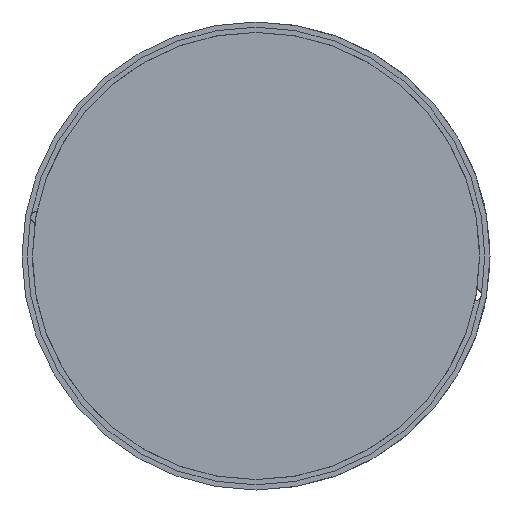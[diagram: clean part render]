
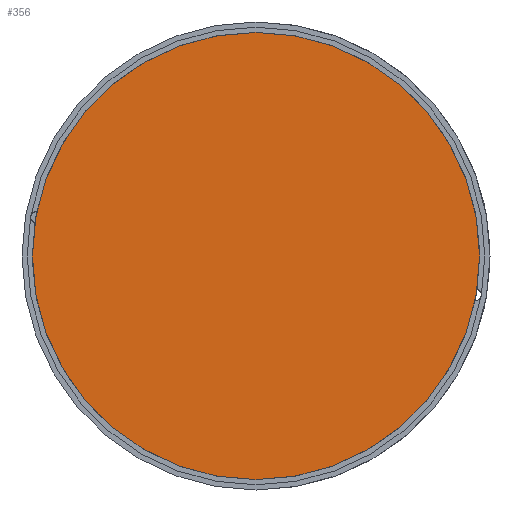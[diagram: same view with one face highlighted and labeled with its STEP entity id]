
A CAD part, front view. The second image highlights one B-rep face of the part: STEP entity #356.
In plain terms, the highlighted planar face has unit normal (0, -1, 0).
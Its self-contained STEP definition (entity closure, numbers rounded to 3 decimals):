
#356 = ADVANCED_FACE ( 'NONE', ( #3923 ), #6917, .T. ) ;
#421 = ORIENTED_EDGE ( 'NONE', *, *, #7129, .T. ) ;
#545 = CARTESIAN_POINT ( 'NONE',  ( 0., 0., 0. ) ) ;
#684 = EDGE_CURVE ( 'NONE', #2308, #7762, #1451, .T. ) ;
#1148 = DIRECTION ( 'NONE',  ( 0., -1., 0. ) ) ;
#1307 = CARTESIAN_POINT ( 'NONE',  ( 0., 0., -172. ) ) ;
#1451 = CIRCLE ( 'NONE', #4015, 172. ) ;
#2308 = VERTEX_POINT ( 'NONE', #2992 ) ;
#2589 = AXIS2_PLACEMENT_3D ( 'NONE', #3273, #4512, #7495 ) ;
#2988 = AXIS2_PLACEMENT_3D ( 'NONE', #4193, #1148, #4783 ) ;
#2992 = CARTESIAN_POINT ( 'NONE',  ( 0., 0., 172. ) ) ;
#3273 = CARTESIAN_POINT ( 'NONE',  ( 0., 0., 0. ) ) ;
#3923 = FACE_OUTER_BOUND ( 'NONE', #5242, .T. ) ;
#4015 = AXIS2_PLACEMENT_3D ( 'NONE', #545, #5493, #5408 ) ;
#4193 = CARTESIAN_POINT ( 'NONE',  ( 0., 0., 0. ) ) ;
#4512 = DIRECTION ( 'NONE',  ( 0., -1., 0. ) ) ;
#4783 = DIRECTION ( 'NONE',  ( 0., 0., -1. ) ) ;
#5242 = EDGE_LOOP ( 'NONE', ( #421, #5785 ) ) ;
#5324 = CIRCLE ( 'NONE', #2589, 172. ) ;
#5408 = DIRECTION ( 'NONE',  ( 0., 0., -1. ) ) ;
#5493 = DIRECTION ( 'NONE',  ( 0., -1., 0. ) ) ;
#5785 = ORIENTED_EDGE ( 'NONE', *, *, #684, .T. ) ;
#6917 = PLANE ( 'NONE',  #2988 ) ;
#7129 = EDGE_CURVE ( 'NONE', #7762, #2308, #5324, .T. ) ;
#7495 = DIRECTION ( 'NONE',  ( 0., 0., -1. ) ) ;
#7762 = VERTEX_POINT ( 'NONE', #1307 ) ;
